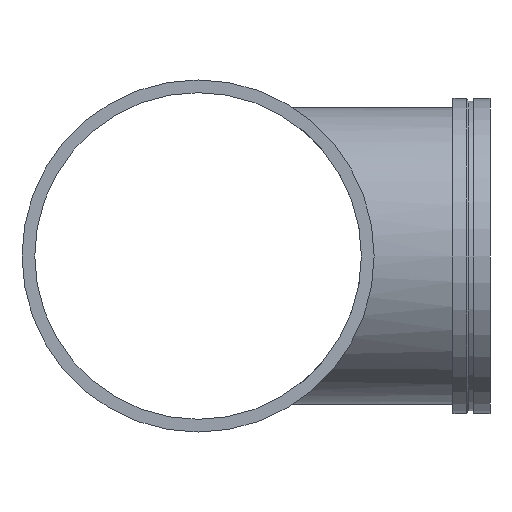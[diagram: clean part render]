
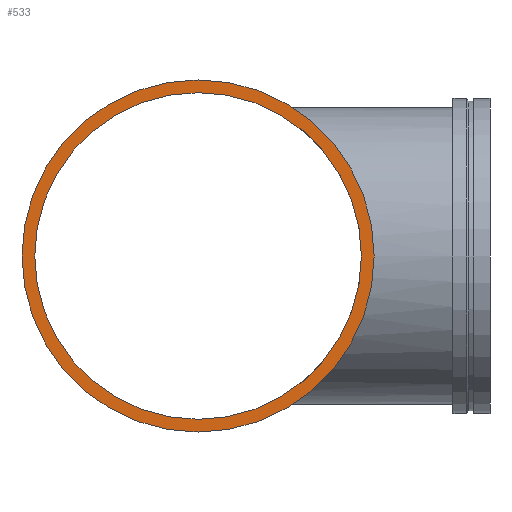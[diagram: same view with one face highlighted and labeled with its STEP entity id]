
A CAD part, left-side view. The second image highlights one B-rep face of the part: STEP entity #533.
In plain terms, the highlighted planar face has unit normal (-1, 0, 0).
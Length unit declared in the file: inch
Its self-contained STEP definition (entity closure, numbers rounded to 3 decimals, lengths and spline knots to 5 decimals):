
#58=FACE_BOUND('',#128,.T.);
#67=PLANE('',#626);
#92=FACE_OUTER_BOUND('',#127,.T.);
#127=EDGE_LOOP('',(#465,#466));
#128=EDGE_LOOP('',(#467,#468));
#151=CIRCLE('',#587,19.);
#152=CIRCLE('',#588,19.);
#175=CIRCLE('',#624,17.625);
#176=CIRCLE('',#625,17.625);
#239=VERTEX_POINT('',#1161);
#240=VERTEX_POINT('',#1163);
#263=VERTEX_POINT('',#1230);
#264=VERTEX_POINT('',#1232);
#299=EDGE_CURVE('',#239,#240,#151,.T.);
#300=EDGE_CURVE('',#240,#239,#152,.T.);
#331=EDGE_CURVE('',#264,#263,#175,.T.);
#332=EDGE_CURVE('',#263,#264,#176,.T.);
#465=ORIENTED_EDGE('',*,*,#300,.F.);
#466=ORIENTED_EDGE('',*,*,#299,.F.);
#467=ORIENTED_EDGE('',*,*,#331,.T.);
#468=ORIENTED_EDGE('',*,*,#332,.T.);
#533=ADVANCED_FACE('',(#92,#58),#67,.T.);
#587=AXIS2_PLACEMENT_3D('',#1164,#716,#717);
#588=AXIS2_PLACEMENT_3D('',#1165,#718,#719);
#624=AXIS2_PLACEMENT_3D('',#1233,#798,#799);
#625=AXIS2_PLACEMENT_3D('',#1234,#800,#801);
#626=AXIS2_PLACEMENT_3D('',#1235,#802,#803);
#716=DIRECTION('center_axis',(1.,0.,0.));
#717=DIRECTION('ref_axis',(0.,0.,1.));
#718=DIRECTION('center_axis',(1.,0.,0.));
#719=DIRECTION('ref_axis',(0.,0.,1.));
#798=DIRECTION('center_axis',(1.,0.,0.));
#799=DIRECTION('ref_axis',(0.,0.,1.));
#800=DIRECTION('center_axis',(1.,0.,0.));
#801=DIRECTION('ref_axis',(0.,0.,1.));
#802=DIRECTION('center_axis',(-1.,0.,0.));
#803=DIRECTION('ref_axis',(0.,0.,-1.));
#1161=CARTESIAN_POINT('',(-32.5,19.,0.));
#1163=CARTESIAN_POINT('',(-32.5,-19.,0.));
#1164=CARTESIAN_POINT('Origin',(-32.5,0.,0.));
#1165=CARTESIAN_POINT('Origin',(-32.5,0.,0.));
#1230=CARTESIAN_POINT('',(-32.5,17.625,0.));
#1232=CARTESIAN_POINT('',(-32.5,-17.625,0.));
#1233=CARTESIAN_POINT('Origin',(-32.5,0.,0.));
#1234=CARTESIAN_POINT('Origin',(-32.5,0.,0.));
#1235=CARTESIAN_POINT('Origin',(-32.5,-19.,0.));
